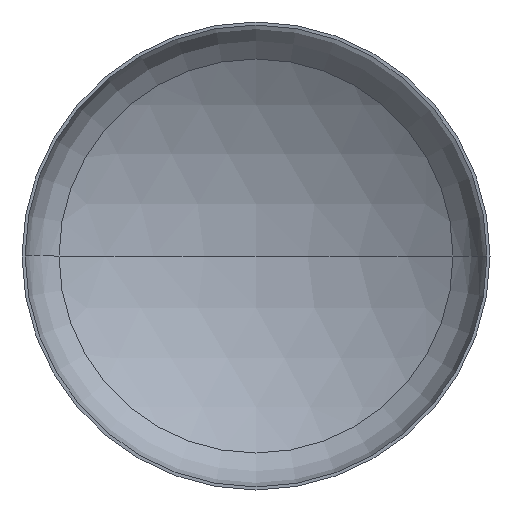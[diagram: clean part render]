
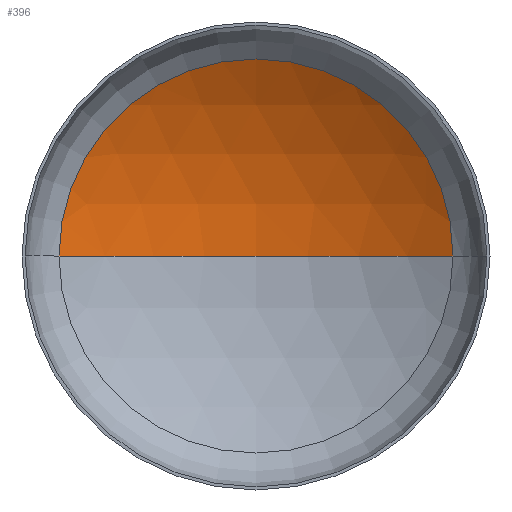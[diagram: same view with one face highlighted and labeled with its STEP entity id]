
A CAD part, front view. The second image highlights one B-rep face of the part: STEP entity #396.
In plain terms, the highlighted spherical face has radius 1440 mm.
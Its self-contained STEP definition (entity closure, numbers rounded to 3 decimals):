
#1 = AXIS2_PLACEMENT_3D ( 'NONE', #13, #276, #97 ) ;
#9 = AXIS2_PLACEMENT_3D ( 'NONE', #127, #272, #395 ) ;
#13 = CARTESIAN_POINT ( 'NONE',  ( 0., 273.853, 0. ) ) ;
#41 = EDGE_LOOP ( 'NONE', ( #137, #100, #48 ) ) ;
#48 = ORIENTED_EDGE ( 'NONE', *, *, #375, .T. ) ;
#80 = DIRECTION ( 'NONE',  ( 0., 0., 1. ) ) ;
#92 = VERTEX_POINT ( 'NONE', #311 ) ;
#97 = DIRECTION ( 'NONE',  ( 1., 0., 0. ) ) ;
#100 = ORIENTED_EDGE ( 'NONE', *, *, #358, .T. ) ;
#119 = VERTEX_POINT ( 'NONE', #307 ) ;
#127 = CARTESIAN_POINT ( 'NONE',  ( 0., -950.685, 0. ) ) ;
#134 = DIRECTION ( 'NONE',  ( -1., 0., 0. ) ) ;
#137 = ORIENTED_EDGE ( 'NONE', *, *, #391, .F. ) ;
#138 = DIRECTION ( 'NONE',  ( 0., 0., -1. ) ) ;
#150 = VERTEX_POINT ( 'NONE', #293 ) ;
#158 = CIRCLE ( 'NONE', #9, 1440. ) ;
#219 = FACE_OUTER_BOUND ( 'NONE', #41, .T. ) ;
#267 = CARTESIAN_POINT ( 'NONE',  ( 0., -950.685, 0. ) ) ;
#272 = DIRECTION ( 'NONE',  ( 0., 0., -1. ) ) ;
#276 = DIRECTION ( 'NONE',  ( 0., -1., 0. ) ) ;
#292 = CIRCLE ( 'NONE', #1, 757.7 ) ;
#293 = CARTESIAN_POINT ( 'NONE',  ( 757.7, 273.853, 0. ) ) ;
#297 = DIRECTION ( 'NONE',  ( 1., 0., 0. ) ) ;
#307 = CARTESIAN_POINT ( 'NONE',  ( 0., 489.315, 0. ) ) ;
#311 = CARTESIAN_POINT ( 'NONE',  ( -757.7, 273.853, 0. ) ) ;
#347 = SPHERICAL_SURFACE ( 'NONE', #407, 1440. ) ;
#353 = CARTESIAN_POINT ( 'NONE',  ( 0., -950.685, 0. ) ) ;
#358 = EDGE_CURVE ( 'NONE', #119, #150, #158, .T. ) ;
#375 = EDGE_CURVE ( 'NONE', #150, #92, #292, .T. ) ;
#385 = AXIS2_PLACEMENT_3D ( 'NONE', #267, #80, #297 ) ;
#391 = EDGE_CURVE ( 'NONE', #119, #92, #400, .T. ) ;
#395 = DIRECTION ( 'NONE',  ( -1., 0., 0. ) ) ;
#396 = ADVANCED_FACE ( 'NONE', ( #219 ), #347, .F. ) ;
#400 = CIRCLE ( 'NONE', #385, 1440. ) ;
#407 = AXIS2_PLACEMENT_3D ( 'NONE', #353, #138, #134 ) ;
